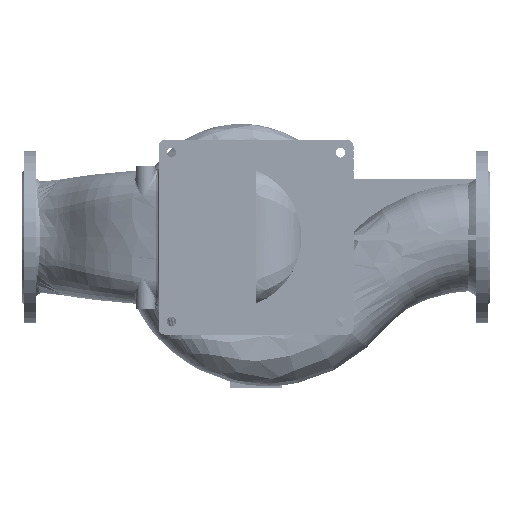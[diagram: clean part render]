
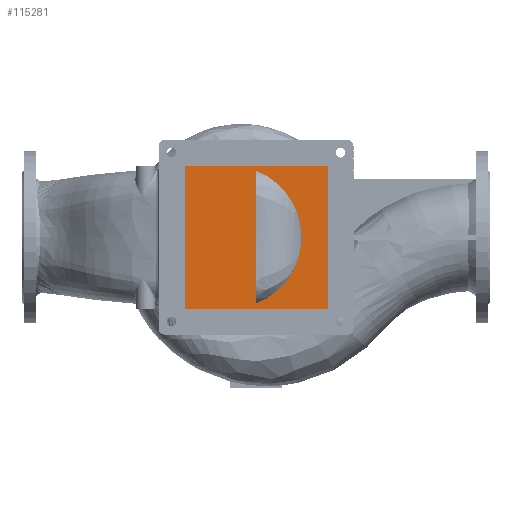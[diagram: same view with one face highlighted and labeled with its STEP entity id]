
A CAD part, front view. The second image highlights one B-rep face of the part: STEP entity #115281.
In plain terms, the highlighted planar face has unit normal (0, -1, 0).
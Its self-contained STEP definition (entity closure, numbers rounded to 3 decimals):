
#5791 = DIRECTION ( 'NONE',  ( 0., 0., -1. ) ) ;
#24549 = CIRCLE ( 'NONE', #65790, 109.82 ) ;
#35549 = VERTEX_POINT ( 'NONE', #41901 ) ;
#38076 = DIRECTION ( 'NONE',  ( 0., 0., 1. ) ) ;
#41901 = CARTESIAN_POINT ( 'NONE',  ( 167.547, 211.765, 735.654 ) ) ;
#45936 = VECTOR ( 'NONE', #5791, 1000. ) ;
#54884 = DIRECTION ( 'NONE',  ( 0., 0., -1. ) ) ;
#56401 = CARTESIAN_POINT ( 'NONE',  ( 277.547, 211.765, 743.339 ) ) ;
#60281 = FACE_BOUND ( 'NONE', #316046, .T. ) ;
#61277 = EDGE_LOOP ( 'NONE', ( #245144, #85557, #296330, #167370 ) ) ;
#65790 = AXIS2_PLACEMENT_3D ( 'NONE', #283064, #130876, #337318 ) ;
#80977 = CARTESIAN_POINT ( 'NONE',  ( 277.547, 211.765, 523.339 ) ) ;
#85557 = ORIENTED_EDGE ( 'NONE', *, *, #206178, .T. ) ;
#88816 = CARTESIAN_POINT ( 'NONE',  ( 57.547, 211.765, 523.339 ) ) ;
#100371 = VERTEX_POINT ( 'NONE', #246414 ) ;
#106018 = LINE ( 'NONE', #200867, #332271 ) ;
#115281 = ADVANCED_FACE ( 'NONE', ( #60281, #342027 ), #173955, .T. ) ;
#130876 = DIRECTION ( 'NONE',  ( 0., -1., 0. ) ) ;
#147049 = DIRECTION ( 'NONE',  ( 0., 0., -1. ) ) ;
#150712 = VERTEX_POINT ( 'NONE', #259366 ) ;
#157148 = VERTEX_POINT ( 'NONE', #80977 ) ;
#164630 = VERTEX_POINT ( 'NONE', #192803 ) ;
#167370 = ORIENTED_EDGE ( 'NONE', *, *, #324081, .T. ) ;
#173955 = PLANE ( 'NONE',  #266984 ) ;
#175455 = DIRECTION ( 'NONE',  ( -1., 0., 0. ) ) ;
#192803 = CARTESIAN_POINT ( 'NONE',  ( 167.547, 211.765, 531.024 ) ) ;
#200867 = CARTESIAN_POINT ( 'NONE',  ( 277.547, 211.765, 523.339 ) ) ;
#201038 = LINE ( 'NONE', #363522, #302344 ) ;
#205711 = VECTOR ( 'NONE', #147049, 1000. ) ;
#206178 = EDGE_CURVE ( 'NONE', #150712, #157148, #106018, .T. ) ;
#211926 = VECTOR ( 'NONE', #175455, 1000. ) ;
#212088 = ORIENTED_EDGE ( 'NONE', *, *, #304372, .F. ) ;
#222553 = EDGE_CURVE ( 'NONE', #164630, #35549, #24549, .T. ) ;
#222962 = VERTEX_POINT ( 'NONE', #314008 ) ;
#230756 = DIRECTION ( 'NONE',  ( 0., -1., 0. ) ) ;
#239329 = ORIENTED_EDGE ( 'NONE', *, *, #222553, .F. ) ;
#245144 = ORIENTED_EDGE ( 'NONE', *, *, #316952, .T. ) ;
#246414 = CARTESIAN_POINT ( 'NONE',  ( 277.547, 211.765, 743.339 ) ) ;
#259366 = CARTESIAN_POINT ( 'NONE',  ( 57.547, 211.765, 523.339 ) ) ;
#266984 = AXIS2_PLACEMENT_3D ( 'NONE', #346874, #230756, #54884 ) ;
#283064 = CARTESIAN_POINT ( 'NONE',  ( 127.647, 211.765, 633.339 ) ) ;
#284134 = LINE ( 'NONE', #88816, #205711 ) ;
#290966 = LINE ( 'NONE', #360980, #45936 ) ;
#296330 = ORIENTED_EDGE ( 'NONE', *, *, #341590, .T. ) ;
#302344 = VECTOR ( 'NONE', #38076, 1000. ) ;
#304372 = EDGE_CURVE ( 'NONE', #35549, #164630, #290966, .T. ) ;
#308835 = LINE ( 'NONE', #56401, #211926 ) ;
#314008 = CARTESIAN_POINT ( 'NONE',  ( 57.547, 211.765, 743.339 ) ) ;
#316046 = EDGE_LOOP ( 'NONE', ( #212088, #239329 ) ) ;
#316952 = EDGE_CURVE ( 'NONE', #222962, #150712, #284134, .T. ) ;
#320696 = DIRECTION ( 'NONE',  ( 1., 0., 0. ) ) ;
#324081 = EDGE_CURVE ( 'NONE', #100371, #222962, #308835, .T. ) ;
#332271 = VECTOR ( 'NONE', #320696, 1000. ) ;
#337318 = DIRECTION ( 'NONE',  ( 0., 0., -1. ) ) ;
#341590 = EDGE_CURVE ( 'NONE', #157148, #100371, #201038, .T. ) ;
#342027 = FACE_OUTER_BOUND ( 'NONE', #61277, .T. ) ;
#346874 = CARTESIAN_POINT ( 'NONE',  ( 167.547, 211.765, 633.339 ) ) ;
#360980 = CARTESIAN_POINT ( 'NONE',  ( 167.547, 211.765, 531.024 ) ) ;
#363522 = CARTESIAN_POINT ( 'NONE',  ( 277.547, 211.765, 523.339 ) ) ;
